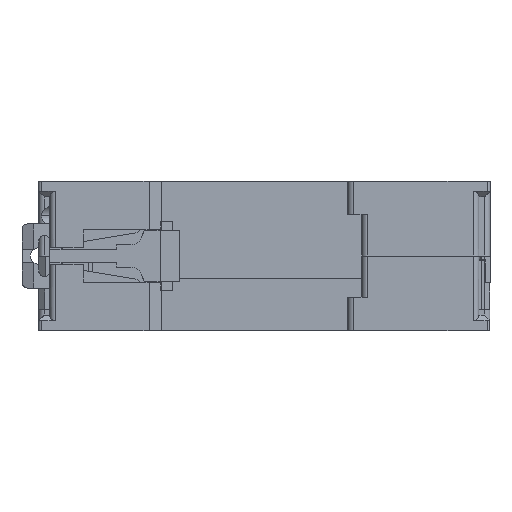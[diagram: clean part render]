
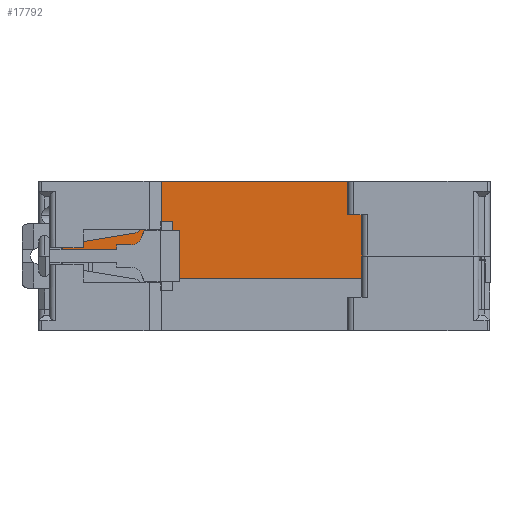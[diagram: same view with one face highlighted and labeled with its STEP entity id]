
A CAD part, front view. The second image highlights one B-rep face of the part: STEP entity #17792.
In plain terms, the highlighted planar face has unit normal (0, -1, 0).
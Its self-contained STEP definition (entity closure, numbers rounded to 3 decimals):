
#605 = EDGE_CURVE ( 'NONE', #28471, #39444, #18556, .T. ) ;
#714 = DIRECTION ( 'NONE',  ( 0., -1., 0. ) ) ;
#896 = VECTOR ( 'NONE', #42309, 1000. ) ;
#1297 = ORIENTED_EDGE ( 'NONE', *, *, #5687, .T. ) ;
#2067 = DIRECTION ( 'NONE',  ( 1., 0., 0. ) ) ;
#2341 = VECTOR ( 'NONE', #25998, 1000. ) ;
#2828 = VECTOR ( 'NONE', #34524, 1000. ) ;
#2841 = VECTOR ( 'NONE', #46810, 1000. ) ;
#3245 = EDGE_CURVE ( 'NONE', #25105, #3319, #37593, .T. ) ;
#3319 = VERTEX_POINT ( 'NONE', #38035 ) ;
#3370 = CARTESIAN_POINT ( 'NONE',  ( -22.3, -60., 18. ) ) ;
#3411 = VECTOR ( 'NONE', #45156, 1000. ) ;
#3637 = CARTESIAN_POINT ( 'NONE',  ( -22.3, -60., 19.1 ) ) ;
#4336 = ORIENTED_EDGE ( 'NONE', *, *, #40549, .T. ) ;
#4878 = CARTESIAN_POINT ( 'NONE',  ( 17.5, -60., 11.6 ) ) ;
#4922 = VECTOR ( 'NONE', #51369, 1000. ) ;
#5131 = VECTOR ( 'NONE', #32785, 1000. ) ;
#5468 = VERTEX_POINT ( 'NONE', #37407 ) ;
#5687 = EDGE_CURVE ( 'NONE', #25105, #13749, #51374, .T. ) ;
#5899 = ORIENTED_EDGE ( 'NONE', *, *, #8293, .F. ) ;
#5904 = LINE ( 'NONE', #7212, #27668 ) ;
#6564 = LINE ( 'NONE', #6882, #48805 ) ;
#6655 = AXIS2_PLACEMENT_3D ( 'NONE', #25245, #714, #29363 ) ;
#6882 = CARTESIAN_POINT ( 'NONE',  ( -38.5, -60., 17.8 ) ) ;
#7212 = CARTESIAN_POINT ( 'NONE',  ( 20.3, -60., -34.51 ) ) ;
#7485 = EDGE_LOOP ( 'NONE', ( #48494, #17213, #4336, #5899, #36701, #28150, #10943, #30919, #32591, #26334, #1297, #10680, #28882, #40166, #44057, #31176 ) ) ;
#7697 = DIRECTION ( 'NONE',  ( 0., 0., 1. ) ) ;
#8293 = EDGE_CURVE ( 'NONE', #39444, #5468, #33511, .T. ) ;
#8337 = CARTESIAN_POINT ( 'NONE',  ( -22.3, -60., 18. ) ) ;
#9348 = VECTOR ( 'NONE', #39267, 1000. ) ;
#9964 = CARTESIAN_POINT ( 'NONE',  ( -18.5, -60., 17.8 ) ) ;
#10293 = VERTEX_POINT ( 'NONE', #52746 ) ;
#10622 = LINE ( 'NONE', #26895, #9348 ) ;
#10680 = ORIENTED_EDGE ( 'NONE', *, *, #51957, .F. ) ;
#10943 = ORIENTED_EDGE ( 'NONE', *, *, #20752, .F. ) ;
#11163 = VERTEX_POINT ( 'NONE', #18779 ) ;
#11305 = DIRECTION ( 'NONE',  ( 0., 0., 1. ) ) ;
#12416 = CARTESIAN_POINT ( 'NONE',  ( 17.5, -60., 11.6 ) ) ;
#13486 = VECTOR ( 'NONE', #28159, 1000. ) ;
#13749 = VERTEX_POINT ( 'NONE', #44343 ) ;
#14735 = CARTESIAN_POINT ( 'NONE',  ( 20.3, -60., 11.6 ) ) ;
#14958 = EDGE_CURVE ( 'NONE', #28892, #24420, #10622, .T. ) ;
#14988 = CARTESIAN_POINT ( 'NONE',  ( -22.3, -60., 19.1 ) ) ;
#15989 = EDGE_CURVE ( 'NONE', #19010, #31541, #24632, .T. ) ;
#16316 = VERTEX_POINT ( 'NONE', #44836 ) ;
#17213 = ORIENTED_EDGE ( 'NONE', *, *, #15989, .F. ) ;
#17359 = FACE_OUTER_BOUND ( 'NONE', #7485, .T. ) ;
#17792 = ADVANCED_FACE ( 'NONE', ( #17359 ), #41501, .T. ) ;
#18556 = LINE ( 'NONE', #49030, #5131 ) ;
#18719 = VECTOR ( 'NONE', #2067, 1000. ) ;
#18779 = CARTESIAN_POINT ( 'NONE',  ( -26.4, -60., 17.8 ) ) ;
#18805 = CARTESIAN_POINT ( 'NONE',  ( -38.5, -60., 11.6 ) ) ;
#19010 = VERTEX_POINT ( 'NONE', #36758 ) ;
#19136 = EDGE_CURVE ( 'NONE', #20529, #16316, #21083, .T. ) ;
#19219 = DIRECTION ( 'NONE',  ( -1., 0., 0. ) ) ;
#19545 = LINE ( 'NONE', #36334, #29183 ) ;
#20529 = VERTEX_POINT ( 'NONE', #12416 ) ;
#20752 = EDGE_CURVE ( 'NONE', #24420, #11163, #47186, .T. ) ;
#20996 = VECTOR ( 'NONE', #31513, 1000. ) ;
#21083 = LINE ( 'NONE', #4878, #33262 ) ;
#21214 = VERTEX_POINT ( 'NONE', #49402 ) ;
#22117 = CARTESIAN_POINT ( 'NONE',  ( -18.5, -60., 25. ) ) ;
#22304 = CARTESIAN_POINT ( 'NONE',  ( -19., -60., 18. ) ) ;
#24420 = VERTEX_POINT ( 'NONE', #50580 ) ;
#24632 = LINE ( 'NONE', #9964, #2828 ) ;
#25105 = VERTEX_POINT ( 'NONE', #50858 ) ;
#25245 = CARTESIAN_POINT ( 'NONE',  ( 1.246, -60., 11.6 ) ) ;
#25904 = LINE ( 'NONE', #22304, #2841 ) ;
#25998 = DIRECTION ( 'NONE',  ( 0.776, 0., -0.631 ) ) ;
#26334 = ORIENTED_EDGE ( 'NONE', *, *, #3245, .F. ) ;
#26442 = EDGE_CURVE ( 'NONE', #21214, #47689, #5904, .T. ) ;
#26895 = CARTESIAN_POINT ( 'NONE',  ( -28., -60., 19.1 ) ) ;
#27135 = DIRECTION ( 'NONE',  ( 1., 0., 0. ) ) ;
#27381 = CARTESIAN_POINT ( 'NONE',  ( -21.7, -60., 7.5 ) ) ;
#27668 = VECTOR ( 'NONE', #11305, 1000. ) ;
#28150 = ORIENTED_EDGE ( 'NONE', *, *, #42901, .F. ) ;
#28159 = DIRECTION ( 'NONE',  ( 0.953, 0., 0.302 ) ) ;
#28471 = VERTEX_POINT ( 'NONE', #14988 ) ;
#28882 = ORIENTED_EDGE ( 'NONE', *, *, #50393, .T. ) ;
#28892 = VERTEX_POINT ( 'NONE', #46258 ) ;
#29183 = VECTOR ( 'NONE', #7697, 1000. ) ;
#29363 = DIRECTION ( 'NONE',  ( 1., 0., 0. ) ) ;
#30919 = ORIENTED_EDGE ( 'NONE', *, *, #14958, .F. ) ;
#31176 = ORIENTED_EDGE ( 'NONE', *, *, #19136, .T. ) ;
#31513 = DIRECTION ( 'NONE',  ( 1., 0., 0. ) ) ;
#31541 = VERTEX_POINT ( 'NONE', #22117 ) ;
#32591 = ORIENTED_EDGE ( 'NONE', *, *, #47715, .T. ) ;
#32785 = DIRECTION ( 'NONE',  ( 0., 0., -1. ) ) ;
#33262 = VECTOR ( 'NONE', #33512, 1000. ) ;
#33511 = LINE ( 'NONE', #8337, #3411 ) ;
#33512 = DIRECTION ( 'NONE',  ( 0., 0., 1. ) ) ;
#33564 = LINE ( 'NONE', #38225, #896 ) ;
#34075 = CARTESIAN_POINT ( 'NONE',  ( -26.4, -60., 17.8 ) ) ;
#34524 = DIRECTION ( 'NONE',  ( 0., 0., 1. ) ) ;
#36334 = CARTESIAN_POINT ( 'NONE',  ( -21.7, -60., -34.51 ) ) ;
#36701 = ORIENTED_EDGE ( 'NONE', *, *, #605, .F. ) ;
#36758 = CARTESIAN_POINT ( 'NONE',  ( -18.5, -60., 18.5 ) ) ;
#37407 = CARTESIAN_POINT ( 'NONE',  ( -19., -60., 18. ) ) ;
#37593 = LINE ( 'NONE', #18805, #4922 ) ;
#38035 = CARTESIAN_POINT ( 'NONE',  ( -38.5, -60., 17.8 ) ) ;
#38225 = CARTESIAN_POINT ( 'NONE',  ( 1.246, -60., 11.6 ) ) ;
#39267 = DIRECTION ( 'NONE',  ( 0.913, 0., 0.409 ) ) ;
#39350 = CARTESIAN_POINT ( 'NONE',  ( 1.246, -60., 25. ) ) ;
#39444 = VERTEX_POINT ( 'NONE', #3370 ) ;
#40166 = ORIENTED_EDGE ( 'NONE', *, *, #26442, .T. ) ;
#40549 = EDGE_CURVE ( 'NONE', #19010, #5468, #25904, .T. ) ;
#40931 = LINE ( 'NONE', #39350, #49228 ) ;
#41501 = PLANE ( 'NONE',  #6655 ) ;
#42309 = DIRECTION ( 'NONE',  ( 1., 0., 0. ) ) ;
#42729 = LINE ( 'NONE', #27381, #20996 ) ;
#42901 = EDGE_CURVE ( 'NONE', #11163, #28471, #43540, .T. ) ;
#43540 = LINE ( 'NONE', #3637, #13486 ) ;
#43937 = EDGE_CURVE ( 'NONE', #31541, #16316, #40931, .T. ) ;
#44057 = ORIENTED_EDGE ( 'NONE', *, *, #45928, .F. ) ;
#44343 = CARTESIAN_POINT ( 'NONE',  ( -21.7, -60., 11.6 ) ) ;
#44836 = CARTESIAN_POINT ( 'NONE',  ( 17.5, -60., 25. ) ) ;
#45156 = DIRECTION ( 'NONE',  ( 1., 0., 0. ) ) ;
#45928 = EDGE_CURVE ( 'NONE', #20529, #47689, #33564, .T. ) ;
#46258 = CARTESIAN_POINT ( 'NONE',  ( -30.9, -60., 17.8 ) ) ;
#46810 = DIRECTION ( 'NONE',  ( -0.707, 0., -0.707 ) ) ;
#47186 = LINE ( 'NONE', #34075, #2341 ) ;
#47689 = VERTEX_POINT ( 'NONE', #14735 ) ;
#47715 = EDGE_CURVE ( 'NONE', #28892, #3319, #6564, .T. ) ;
#48494 = ORIENTED_EDGE ( 'NONE', *, *, #43937, .F. ) ;
#48805 = VECTOR ( 'NONE', #19219, 1000. ) ;
#49030 = CARTESIAN_POINT ( 'NONE',  ( -22.3, -60., 18. ) ) ;
#49228 = VECTOR ( 'NONE', #27135, 1000. ) ;
#49402 = CARTESIAN_POINT ( 'NONE',  ( 20.3, -60., 7.5 ) ) ;
#50393 = EDGE_CURVE ( 'NONE', #10293, #21214, #42729, .T. ) ;
#50580 = CARTESIAN_POINT ( 'NONE',  ( -28., -60., 19.1 ) ) ;
#50858 = CARTESIAN_POINT ( 'NONE',  ( -38.5, -60., 11.6 ) ) ;
#51124 = CARTESIAN_POINT ( 'NONE',  ( 1.246, -60., 11.6 ) ) ;
#51369 = DIRECTION ( 'NONE',  ( 0., 0., 1. ) ) ;
#51374 = LINE ( 'NONE', #51124, #18719 ) ;
#51957 = EDGE_CURVE ( 'NONE', #10293, #13749, #19545, .T. ) ;
#52746 = CARTESIAN_POINT ( 'NONE',  ( -21.7, -60., 7.5 ) ) ;
